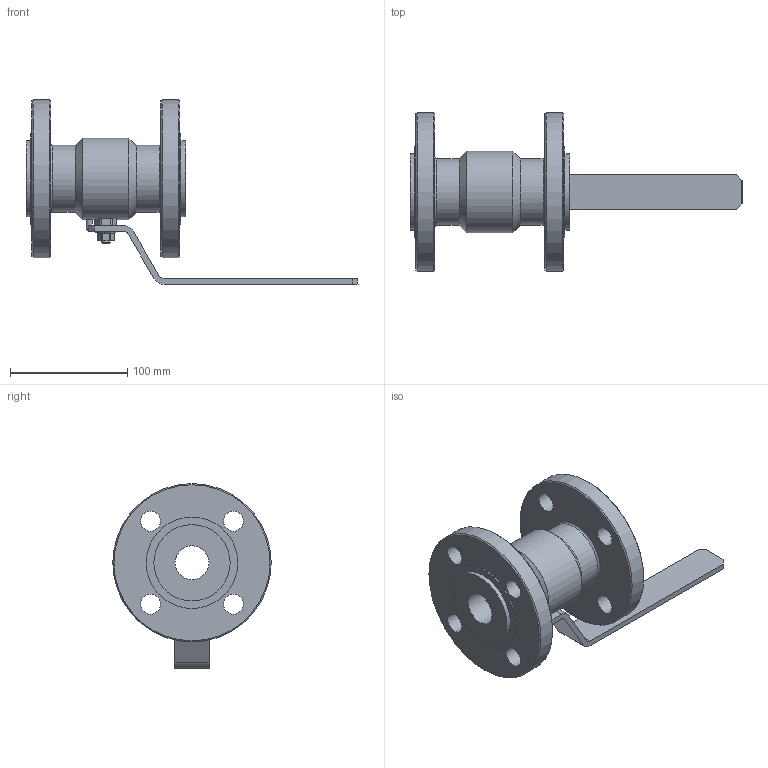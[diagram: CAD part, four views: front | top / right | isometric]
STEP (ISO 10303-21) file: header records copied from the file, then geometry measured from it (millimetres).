
FILE_DESCRIPTION(('STEP AP203'), '1');
FILE_NAME('ZARD 032.025.22.P.stp', '2013-12-06T05:59:56', ('User'), ('Computer'), 'ASCON STEP Converter 1.3', 'Kompas 3D', '');
FILE_SCHEMA(('CONFIG_CONTROL_DESIGN','SUPPORT_RESOURCE_SCHEMA'));
Length unit declared in the file: millimetre
Products named in the file (1): 20
Bounding box: 283 x 135 x 157.5 mm (x, y, z)
Volume: 683405 mm3; surface area: 124382.9 mm2
Topology: 1 solids, 3 shells, 161 faces, 374 edges, 235 vertices
Faces by surface type: plane 85, cylinder 53, cone 20, torus 3
Full cylindrical faces by diameter (mm): 5 x2, 8 x1, 10.7 x1, 10.917 x1, 12 x1, 12.1 x1, 17 x8, 19.8 x1, 20 x2, 29 x2, 48.4 x1, 57 x2, 65 x2, 69.5 x1, 78 x2, 135 x2
Entity records: 5336 total; most frequent: CARTESIAN_POINT 1440, DIRECTION 838, ORIENTED_EDGE 748, EDGE_CURVE 374, AXIS2_PLACEMENT_3D 322, VERTEX_POINT 235, EDGE_LOOP 199, LINE 194
